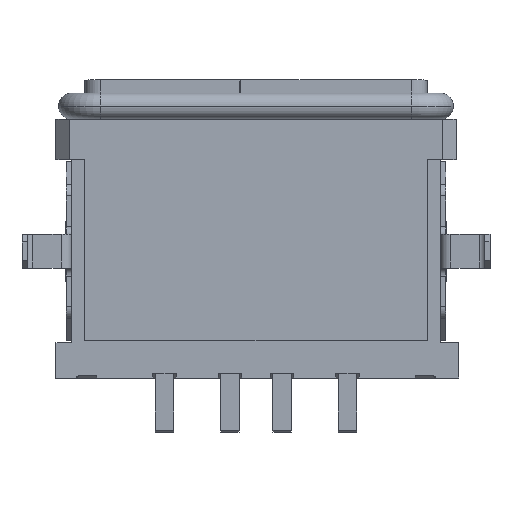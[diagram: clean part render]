
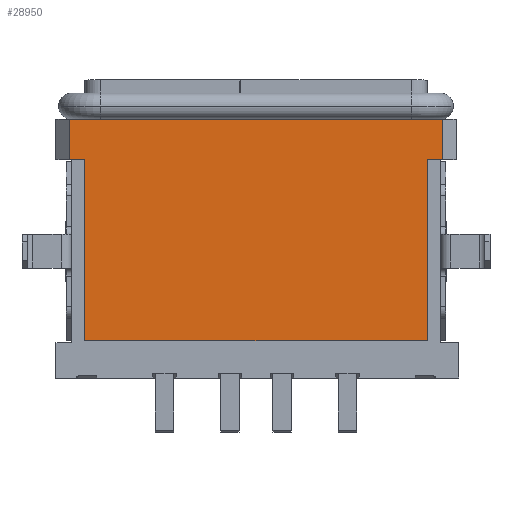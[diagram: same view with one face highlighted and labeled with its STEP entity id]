
A CAD part, top view. The second image highlights one B-rep face of the part: STEP entity #28950.
In plain terms, the highlighted planar face has unit normal (0, 0, 1).
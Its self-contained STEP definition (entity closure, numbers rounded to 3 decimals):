
#154 = ORIENTED_EDGE ( 'NONE', *, *, #26005, .F. ) ;
#3410 = VECTOR ( 'NONE', #26896, 1000. ) ;
#3547 = DIRECTION ( 'NONE',  ( 0., 0., -1. ) ) ;
#3795 = ORIENTED_EDGE ( 'NONE', *, *, #18632, .F. ) ;
#4913 = LINE ( 'NONE', #13453, #3410 ) ;
#5085 = VERTEX_POINT ( 'NONE', #29590 ) ;
#5164 = LINE ( 'NONE', #29094, #26389 ) ;
#6006 = DIRECTION ( 'NONE',  ( 1., 0., 0. ) ) ;
#6947 = DIRECTION ( 'NONE',  ( 0., 1., 0. ) ) ;
#7160 = ORIENTED_EDGE ( 'NONE', *, *, #31741, .F. ) ;
#7743 = EDGE_CURVE ( 'NONE', #13350, #28689, #18804, .T. ) ;
#8329 = VERTEX_POINT ( 'NONE', #38017 ) ;
#8530 = ORIENTED_EDGE ( 'NONE', *, *, #22466, .F. ) ;
#8700 = CARTESIAN_POINT ( 'NONE',  ( 7.15, 7.71, 2.99 ) ) ;
#9340 = VERTEX_POINT ( 'NONE', #15083 ) ;
#9551 = DIRECTION ( 'NONE',  ( 0., -1., 0. ) ) ;
#9676 = EDGE_LOOP ( 'NONE', ( #8530, #10668, #17476, #154, #3795, #11330, #7160, #11438 ) ) ;
#9854 = CARTESIAN_POINT ( 'NONE',  ( -6.55, 7.65, 2.99 ) ) ;
#10573 = LINE ( 'NONE', #13299, #15635 ) ;
#10668 = ORIENTED_EDGE ( 'NONE', *, *, #7743, .F. ) ;
#10802 = EDGE_CURVE ( 'NONE', #29268, #36873, #5164, .T. ) ;
#11295 = VECTOR ( 'NONE', #25581, 1000. ) ;
#11330 = ORIENTED_EDGE ( 'NONE', *, *, #10802, .T. ) ;
#11438 = ORIENTED_EDGE ( 'NONE', *, *, #35849, .T. ) ;
#11637 = VERTEX_POINT ( 'NONE', #18830 ) ;
#13299 = CARTESIAN_POINT ( 'NONE',  ( 7.75, 7.71, 2.99 ) ) ;
#13350 = VERTEX_POINT ( 'NONE', #23452 ) ;
#13453 = CARTESIAN_POINT ( 'NONE',  ( 6.55, 7.65, 2.99 ) ) ;
#14151 = VECTOR ( 'NONE', #6006, 1000. ) ;
#15083 = CARTESIAN_POINT ( 'NONE',  ( -7.15, 7.71, 2.99 ) ) ;
#15635 = VECTOR ( 'NONE', #22655, 1000. ) ;
#17476 = ORIENTED_EDGE ( 'NONE', *, *, #22378, .F. ) ;
#18632 = EDGE_CURVE ( 'NONE', #29268, #8329, #22779, .T. ) ;
#18804 = LINE ( 'NONE', #9854, #37407 ) ;
#18830 = CARTESIAN_POINT ( 'NONE',  ( -7.15, 9.25, 2.99 ) ) ;
#19155 = LINE ( 'NONE', #37061, #11295 ) ;
#19851 = CARTESIAN_POINT ( 'NONE',  ( 7.75, 7.71, 2.99 ) ) ;
#21357 = CARTESIAN_POINT ( 'NONE',  ( -5.95, 9.25, 2.99 ) ) ;
#22378 = EDGE_CURVE ( 'NONE', #5085, #13350, #19155, .T. ) ;
#22466 = EDGE_CURVE ( 'NONE', #28689, #9340, #10573, .T. ) ;
#22655 = DIRECTION ( 'NONE',  ( -1., 0., 0. ) ) ;
#22779 = LINE ( 'NONE', #19851, #34287 ) ;
#23452 = CARTESIAN_POINT ( 'NONE',  ( -6.55, 0.78, 2.99 ) ) ;
#25200 = AXIS2_PLACEMENT_3D ( 'NONE', #27474, #3547, #9551 ) ;
#25581 = DIRECTION ( 'NONE',  ( -1., 0., 0. ) ) ;
#25837 = VECTOR ( 'NONE', #26676, 1000. ) ;
#26005 = EDGE_CURVE ( 'NONE', #8329, #5085, #4913, .T. ) ;
#26389 = VECTOR ( 'NONE', #37843, 1000. ) ;
#26676 = DIRECTION ( 'NONE',  ( 0., -1., 0. ) ) ;
#26896 = DIRECTION ( 'NONE',  ( 0., -1., 0. ) ) ;
#27474 = CARTESIAN_POINT ( 'NONE',  ( -5.95, -9.55, 2.99 ) ) ;
#28689 = VERTEX_POINT ( 'NONE', #37222 ) ;
#28950 = ADVANCED_FACE ( 'NONE', ( #29810 ), #30194, .F. ) ;
#29094 = CARTESIAN_POINT ( 'NONE',  ( 7.15, -9.55, 2.99 ) ) ;
#29268 = VERTEX_POINT ( 'NONE', #8700 ) ;
#29590 = CARTESIAN_POINT ( 'NONE',  ( 6.55, 0.78, 2.99 ) ) ;
#29810 = FACE_OUTER_BOUND ( 'NONE', #9676, .T. ) ;
#30194 = PLANE ( 'NONE',  #25200 ) ;
#31728 = DIRECTION ( 'NONE',  ( -1., 0., 0. ) ) ;
#31741 = EDGE_CURVE ( 'NONE', #11637, #36873, #32673, .T. ) ;
#32132 = CARTESIAN_POINT ( 'NONE',  ( -7.15, -9.55, 2.99 ) ) ;
#32322 = LINE ( 'NONE', #32132, #25837 ) ;
#32673 = LINE ( 'NONE', #21357, #14151 ) ;
#34287 = VECTOR ( 'NONE', #31728, 1000. ) ;
#35849 = EDGE_CURVE ( 'NONE', #11637, #9340, #32322, .T. ) ;
#36873 = VERTEX_POINT ( 'NONE', #37686 ) ;
#37061 = CARTESIAN_POINT ( 'NONE',  ( -7.65, 0.78, 2.99 ) ) ;
#37222 = CARTESIAN_POINT ( 'NONE',  ( -6.55, 7.71, 2.99 ) ) ;
#37407 = VECTOR ( 'NONE', #6947, 1000. ) ;
#37686 = CARTESIAN_POINT ( 'NONE',  ( 7.15, 9.25, 2.99 ) ) ;
#37843 = DIRECTION ( 'NONE',  ( 0., 1., 0. ) ) ;
#38017 = CARTESIAN_POINT ( 'NONE',  ( 6.55, 7.71, 2.99 ) ) ;
